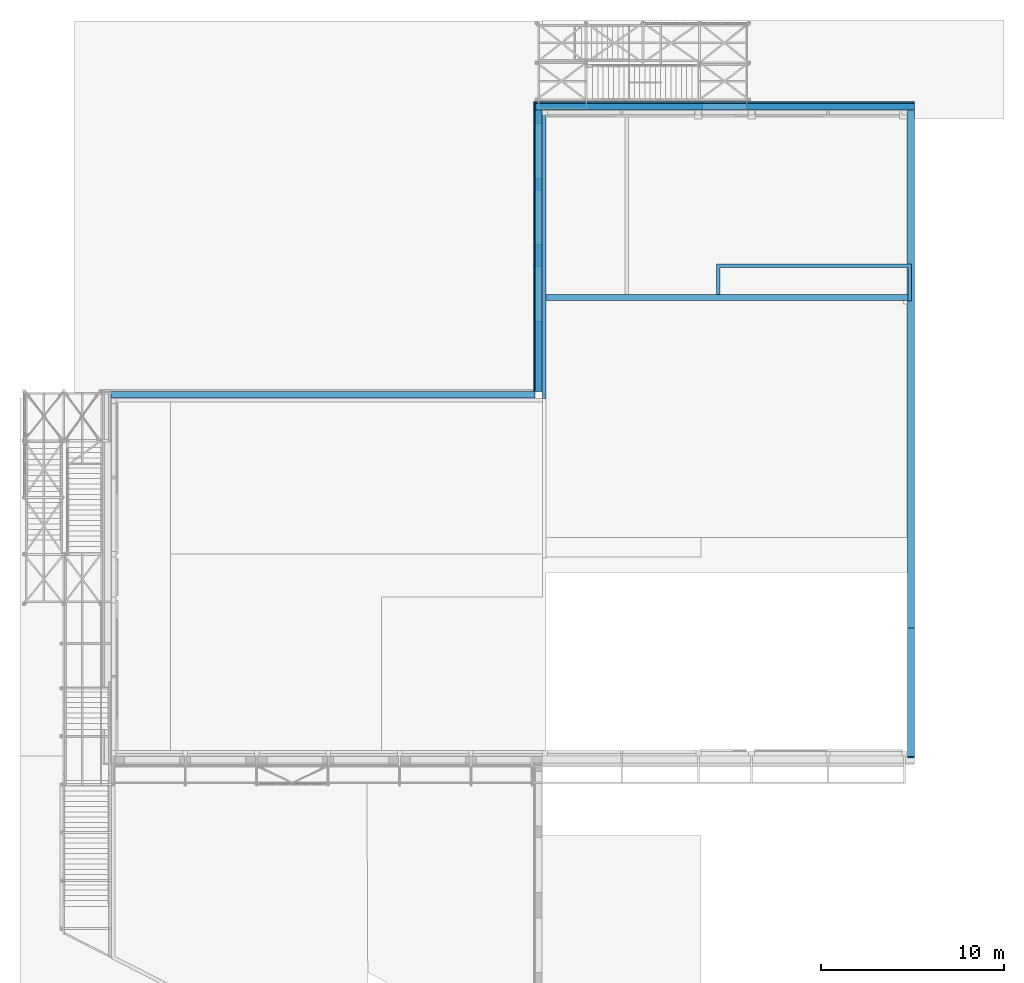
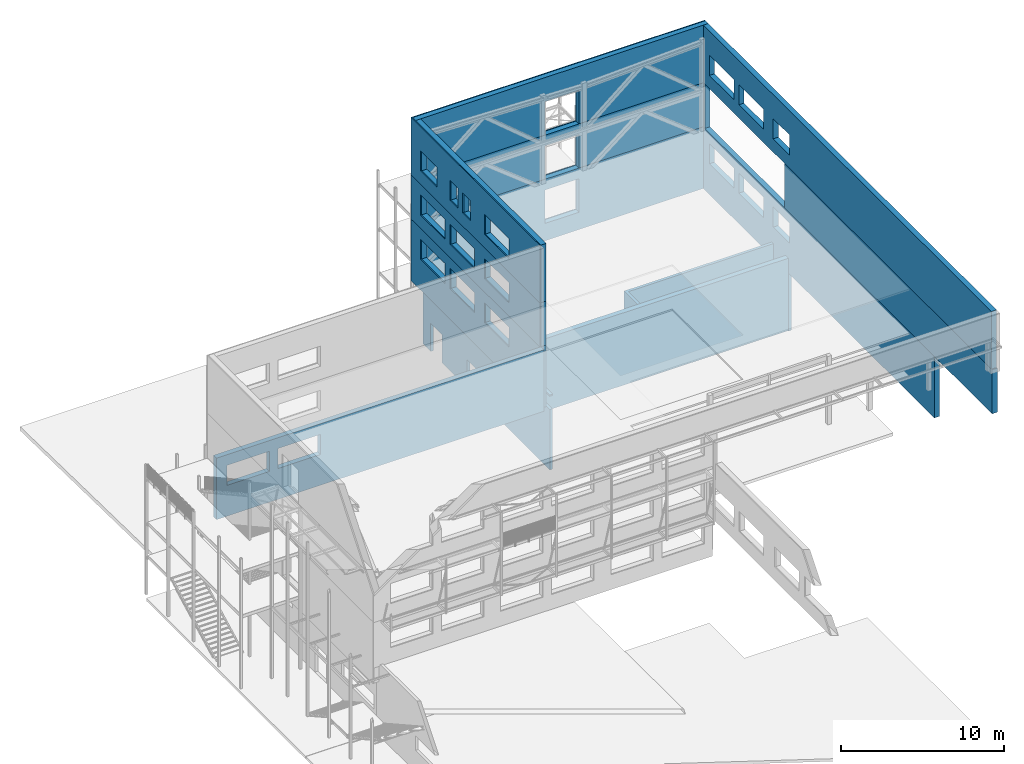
# One storey, part 66 of 78: 19 walls, 19 elements without a shape of their own.
"""IFC2X3 building model written with IfcOpenShell, lengths in millimetres."""

from ifc_helpers import new_model, si_unit, frame, frame_2d, origin_with_axes, place, context, subcontext, project, spatial, polyline, rectangle, outline, extrude, boolean, faceted_brep, material, type_object, element, aggregate, save


model = new_model("IFC2X3")

# Units and contexts
model_context = context("Model", 3, precision=1e-05, world=origin_with_axes())
body_context = subcontext(model_context, "Body", "Model", "MODEL_VIEW")
ifc_project = project(units=[si_unit("LENGTHUNIT", "METRE", prefix="MILLI"), si_unit("AREAUNIT", "SQUARE_METRE"), si_unit("VOLUMEUNIT", "CUBIC_METRE"), si_unit("MASSUNIT", "GRAM", prefix="KILO"), si_unit("TIMEUNIT", "SECOND"), si_unit("PLANEANGLEUNIT", "RADIAN"), si_unit("SOLIDANGLEUNIT", "STERADIAN"), si_unit("THERMODYNAMICTEMPERATUREUNIT", "DEGREE_CELSIUS"), si_unit("LUMINOUSINTENSITYUNIT", "LUMEN")], contexts=[model_context])

# Site, building, storey
site_placement = place(None, origin_with_axes())
site = spatial("IfcSite", under=ifc_project, at=site_placement, Name="Site", CompositionType="ELEMENT")
building_placement = place(site_placement, origin_with_axes())
building = spatial("IfcBuilding", under=site, at=building_placement, Name="Undefined", CompositionType="ELEMENT")
storey_placement = place(building_placement, origin_with_axes())
storey = spatial("IfcBuildingStorey", under=building, at=storey_placement, Name="Undefined", CompositionType="ELEMENT", Elevation=0.0)

# Assembly, wall
assembly_1_placement = place(storey_placement, origin_with_axes())
assembly_1 = element("IfcElementAssembly", 1, at=assembly_1_placement, inside=storey, Name="PANNEAU", AssemblyPlace="NOTDEFINED", PredefinedType="RIGID_FRAME")
ifc_material_1 = material(Name="STEEL/S235JR")
wall_type_1 = type_object("IfcWallType", Name="4300*75", PredefinedType="NOTDEFINED")
wall_1_placement = place(assembly_1_placement, frame((-7513.93307495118, 28603.0008996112, 160000.040297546), z_axis=(0.0, 0.0, 1.0), x_axis=(0.0, -1.0, 0.0)))
wall_1 = element("IfcWall", 2, at=wall_1_placement, type_object=wall_type_1, material=ifc_material_1, Name="PANNEAU", ObjectType="4300*75", context=body_context, shape_type="CSG", body=[
    boolean("DIFFERENCE", boolean("DIFFERENCE", boolean("DIFFERENCE", boolean("DIFFERENCE", extrude(rectangle(XDim=15795.0006103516, YDim=75.0, at=frame_2d((0.0, 7897.50030517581), x_axis=(0.0, -1.0))), frame((0.0, 0.0, 0.0), z_axis=(0.0, 0.0, 1.0), x_axis=(0.0, -1.0, 0.0)), (0.0, 0.0, 1.0), 4300.0), extrude(outline(polyline([(0.0, 0.0), (3000.0, 0.0), (3000.0, 1500.00095367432), (0.0, 1500.00095367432), (0.0, 0.0)])), frame((8991.97436235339, 325.0, 999.999668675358), z_axis=(0.0, -1.0, 0.0), x_axis=(1.0, 0.0, 0.0)), (0.0, 0.0, 1.0), 365.0)), extrude(outline(polyline([(0.0, 0.0), (1500.0, -3.63797880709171e-12), (1500.0, 939.870834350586), (0.0, 939.870834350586), (0.0, 0.0)])), frame((4793.12938068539, 325.0, 2500.00042080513), z_axis=(0.0, -1.0, 0.0), x_axis=(0.0, 0.0, -1.0)), (0.0, 0.0, 1.0), 365.0)), extrude(outline(polyline([(0.0, 0.0), (940.000534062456, 1.92085281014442e-09), (939.999012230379, 1500.00095368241), (-0.00152183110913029, 1500.00000000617), (0.0, 0.0)])), frame((6337.9998292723, 325.0, 1000.00049495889), z_axis=(0.0, -1.0, 0.0), x_axis=(1.0, 0.0, 0.0)), (0.0, 0.0, 1.0), 365.0)), extrude(outline(polyline([(0.0, 0.0), (1979.99954223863, 2.16823536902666e-08), (1979.9988197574, 1500.0009536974), (-0.000722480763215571, 1500.0000000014), (0.0, 0.0)])), frame((1188.11274431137, 325.0, 1000.00024776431), z_axis=(0.0, -1.0, 0.0), x_axis=(1.0, 0.0, 0.0)), (0.0, 0.0, 1.0), 365.0)),
])
aggregate(assembly_1, [wall_1])

assembly_2_placement = place(storey_placement, origin_with_axes())
assembly_2 = element("IfcElementAssembly", 3, at=assembly_2_placement, inside=storey, Name="PANNEAU", AssemblyPlace="NOTDEFINED", PredefinedType="RIGID_FRAME")
wall_2_placement = place(assembly_2_placement, frame((13219.567024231, 28565.4996032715, 160000.039534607), z_axis=(0.0, 0.0, 1.0), x_axis=(-1.0, 0.0, 0.0)))
wall_2 = element("IfcWall", 4, at=wall_2_placement, type_object=wall_type_1, material=ifc_material_1, Name="PANNEAU", ObjectType="4300*75", context=body_context, shape_type="CSG", body=[
    boolean("DIFFERENCE", extrude(rectangle(XDim=20695.999622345, YDim=75.0, at=frame_2d((0.0, 10347.9998111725), x_axis=(0.0, -1.0))), frame((0.0, 0.0, 0.0), z_axis=(0.0, 0.0, 1.0), x_axis=(0.0, -1.0, 0.0)), (0.0, 0.0, 1.0), 4300.0), extrude(outline(polyline([(0.0, 0.0), (2399.99985694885, 0.0), (2399.99985694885, 2500.00095367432), (-1.81898940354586e-12, 2500.00095367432), (0.0, 0.0)])), frame((9152.99987792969, 325.0, 0.0), z_axis=(0.0, -1.0, 0.0), x_axis=(1.0, 0.0, 0.0)), (0.0, 0.0, 1.0), 365.0)),
])
aggregate(assembly_2, [wall_2])

assembly_3_placement = place(storey_placement, origin_with_axes())
assembly_3 = element("IfcElementAssembly", 5, at=assembly_3_placement, inside=storey, Name="PANNEAU", AssemblyPlace="NOTDEFINED", PredefinedType="RIGID_FRAME")
wall_type_2 = type_object("IfcWallType", Name="3300*75", PredefinedType="NOTDEFINED")
wall_3_placement = place(assembly_3_placement, frame((-7513.93307495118, 28603.0009002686, 156700.040297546), z_axis=(0.0, 0.0, 1.0), x_axis=(0.0, -1.0, 0.0)))
wall_3 = element("IfcWall", 6, at=wall_3_placement, type_object=wall_type_2, material=ifc_material_1, Name="PANNEAU", ObjectType="3300*75", context=body_context, shape_type="CSG", body=[
    boolean("DIFFERENCE", boolean("DIFFERENCE", boolean("DIFFERENCE", extrude(rectangle(XDim=15795.0006103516, YDim=75.0, at=frame_2d((0.0, 7897.50030517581), x_axis=(0.0, -1.0))), frame((0.0, 0.0, 0.0), z_axis=(0.0, 0.0, 1.0), x_axis=(0.0, -1.0, 0.0)), (0.0, 0.0, 1.0), 3300.0), extrude(outline(polyline([(0.0, 0.0), (3000.0, 0.0), (3000.0, 1500.0), (0.0, 1500.0), (0.0, 0.0)])), frame((8991.97441101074, 325.0, 1000.0), z_axis=(0.0, -1.0, 0.0), x_axis=(1.0, 0.0, 0.0)), (0.0, 0.0, 1.0), 365.0)), extrude(outline(polyline([(0.0, 0.0), (3000.0, 0.0), (3000.0, 1500.0), (0.0, 1500.0), (0.0, 0.0)])), frame((4793.12950134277, 325.0, 1000.0), z_axis=(0.0, -1.0, 0.0), x_axis=(1.0, 0.0, 0.0)), (0.0, 0.0, 1.0), 365.0)), extrude(outline(polyline([(0.0, 0.0), (3000.0, 0.0), (3000.0, 1500.0), (0.0, 1500.0), (0.0, 0.0)])), frame((1188.11279296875, 325.0, 1000.0), z_axis=(0.0, -1.0, 0.0), x_axis=(1.0, 0.0, 0.0)), (0.0, 0.0, 1.0), 365.0)),
])
aggregate(assembly_3, [wall_3])

assembly_4_placement = place(storey_placement, origin_with_axes())
assembly_4 = element("IfcElementAssembly", 7, at=assembly_4_placement, inside=storey, Name="PANNEAU", AssemblyPlace="NOTDEFINED", PredefinedType="RIGID_FRAME")
wall_4_placement = place(assembly_4_placement, frame((13219.567024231, 28565.4996032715, 156700.040297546), z_axis=(0.0, 0.0, 1.0), x_axis=(-1.0, 0.0, 0.0)))
wall_4 = element("IfcWall", 8, at=wall_4_placement, type_object=wall_type_2, material=ifc_material_1, Name="PANNEAU", ObjectType="3300*75", context=body_context, shape_type="CSG", body=[
    boolean("DIFFERENCE", extrude(rectangle(XDim=20695.999622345, YDim=75.0, at=frame_2d((0.0, 10347.9998111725), x_axis=(0.0, -1.0))), frame((0.0, 0.0, 0.0), z_axis=(0.0, 0.0, 1.0), x_axis=(0.0, -1.0, 0.0)), (0.0, 0.0, 1.0), 3300.0), extrude(outline(polyline([(0.0, 0.0), (2399.99985694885, 0.0), (2399.99985694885, 2500.0), (1.81898940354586e-12, 2500.0), (0.0, 0.0)])), frame((9152.99987792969, 325.0, 0.0), z_axis=(0.0, -1.0, 0.0), x_axis=(1.0, 0.0, 0.0)), (0.0, 0.0, 1.0), 365.0)),
])
aggregate(assembly_4, [wall_4])

assembly_5_placement = place(storey_placement, origin_with_axes())
assembly_5 = element("IfcElementAssembly", 9, at=assembly_5_placement, inside=storey, Name="PANNEAU", AssemblyPlace="NOTDEFINED", PredefinedType="RIGID_FRAME")
wall_type_3 = type_object("IfcWallType", Name="4600*75", PredefinedType="NOTDEFINED")
wall_5_placement = place(assembly_5_placement, frame((-7513.93307495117, 28603.0009002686, 152100.039916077), z_axis=(0.0, 0.0, 1.0), x_axis=(0.0, -1.0, 0.0)))
wall_5 = element("IfcWall", 10, at=wall_5_placement, type_object=wall_type_3, material=ifc_material_1, Name="PANNEAU", ObjectType="4600*75", context=body_context, shape_type="CSG", body=[
    boolean("DIFFERENCE", boolean("DIFFERENCE", boolean("DIFFERENCE", extrude(rectangle(XDim=15795.0006103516, YDim=75.0, at=frame_2d((0.0, 7897.50030517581), x_axis=(0.0, -1.0))), frame((0.0, 0.0, 0.0), z_axis=(0.0, 0.0, 1.0), x_axis=(0.0, -1.0, 0.0)), (0.0, 0.0, 1.0), 4600.0), extrude(outline(polyline([(0.0, 0.0), (3000.0, 0.0), (3000.0, 1500.0), (0.0, 1500.0), (0.0, 0.0)])), frame((8991.97441101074, 325.0, 2300.00019073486), z_axis=(0.0, -1.0, 0.0), x_axis=(1.0, 0.0, 0.0)), (0.0, 0.0, 1.0), 365.0)), extrude(outline(polyline([(0.0, 0.0), (3000.0, 0.0), (3000.0, 1500.0), (0.0, 1500.0), (0.0, 0.0)])), frame((4793.12950134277, 325.0, 2300.00019073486), z_axis=(0.0, -1.0, 0.0), x_axis=(1.0, 0.0, 0.0)), (0.0, 0.0, 1.0), 365.0)), extrude(outline(polyline([(0.0, 0.0), (3000.0, 0.0), (3000.0, 1500.0), (0.0, 1500.0), (0.0, 0.0)])), frame((1188.11279296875, 325.0, 2300.00019073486), z_axis=(0.0, -1.0, 0.0), x_axis=(1.0, 0.0, 0.0)), (0.0, 0.0, 1.0), 365.0)),
])
aggregate(assembly_5, [wall_5])

assembly_6_placement = place(storey_placement, origin_with_axes())
assembly_6 = element("IfcElementAssembly", 11, at=assembly_6_placement, inside=storey, Name="PANNEAU", AssemblyPlace="NOTDEFINED", PredefinedType="RIGID_FRAME")
wall_6_placement = place(assembly_6_placement, frame((13219.567024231, 28565.4996032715, 152100.039916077), z_axis=(0.0, 0.0, 1.0), x_axis=(-1.0, 0.0, 0.0)))
wall_6 = element("IfcWall", 12, at=wall_6_placement, type_object=wall_type_3, material=ifc_material_1, Name="PANNEAU", ObjectType="4600*75", context=body_context, shape_type="CSG", body=[
    boolean("DIFFERENCE", extrude(rectangle(XDim=20695.999622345, YDim=75.0, at=frame_2d((0.0, 10347.9998111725), x_axis=(0.0, -1.0))), frame((0.0, 0.0, 0.0), z_axis=(0.0, 0.0, 1.0), x_axis=(0.0, -1.0, 0.0)), (0.0, 0.0, 1.0), 4600.0), extrude(outline(polyline([(0.0, 0.0), (2399.99985694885, 0.0), (2399.99985694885, 2500.0), (1.81898940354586e-12, 2500.0), (0.0, 0.0)])), frame((9152.99987792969, 325.0, 1300.00019073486), z_axis=(0.0, -1.0, 0.0), x_axis=(1.0, 0.0, 0.0)), (0.0, 0.0, 1.0), 365.0)),
])
aggregate(assembly_6, [wall_6])

assembly_7_placement = place(storey_placement, origin_with_axes())
assembly_7 = element("IfcElementAssembly", 13, at=assembly_7_placement, inside=storey, Name="PANNEAU", AssemblyPlace="NOTDEFINED", PredefinedType="NOTDEFINED")
ifc_material_2 = material(Name="MISCELLANEOUS/ISOLANT")
wall_type_4 = type_object("IfcWallType", Name="4300*360", PredefinedType="NOTDEFINED")
wall_7_placement = place(assembly_7_placement, frame((-7296.43307495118, 28168.00090097, 160000.040297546), z_axis=(0.0, 0.0, 1.0), x_axis=(0.0, -1.0, 0.0)))
wall_7 = element("IfcWall", 14, at=wall_7_placement, type_object=wall_type_4, material=ifc_material_2, Name="PANNEAU", ObjectType="4300*360", context=body_context, shape_type="CSG", body=[
    boolean("DIFFERENCE", boolean("DIFFERENCE", boolean("DIFFERENCE", boolean("DIFFERENCE", extrude(rectangle(XDim=15360.0006103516, YDim=360.0, at=frame_2d((0.0, 7680.00030517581), x_axis=(0.0, -1.0))), frame((0.0, 0.0, 0.0), z_axis=(0.0, 0.0, 1.0), x_axis=(0.0, -1.0, 0.0)), (0.0, 0.0, 1.0), 4300.0), extrude(outline(polyline([(0.0, 0.0), (3000.0, 0.0), (3000.0, 1500.00095367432), (0.0, 1500.00095367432), (0.0, 0.0)])), frame((8556.97436171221, 182.5, 999.999664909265), z_axis=(0.0, -1.0, 0.0), x_axis=(1.0, 0.0, 0.0)), (0.0, 0.0, 1.0), 365.0)), extrude(outline(polyline([(0.0, 0.0), (1500.0, -3.63797880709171e-12), (1500.0, 939.870834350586), (0.0, 939.870834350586), (0.0, 0.0)])), frame((4358.1293770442, 182.5, 2500.00040864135), z_axis=(0.0, -1.0, 0.0), x_axis=(0.0, 0.0, -1.0)), (0.0, 0.0, 1.0), 365.0)), extrude(outline(polyline([(0.0, 0.0), (940.000534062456, 1.92085281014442e-09), (939.999012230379, 1500.00095368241), (-0.00152183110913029, 1500.00000000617), (0.0, 0.0)])), frame((5902.99982863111, 182.5, 1000.00048588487), z_axis=(0.0, -1.0, 0.0), x_axis=(1.0, 0.0, 0.0)), (0.0, 0.0, 1.0), 365.0)), extrude(outline(polyline([(0.0, 0.0), (1979.99954223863, 2.16823536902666e-08), (1979.9988197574, 1500.0009536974), (-0.000722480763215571, 1500.0000000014), (0.0, 0.0)])), frame((753.112743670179, 182.5, 1000.00022839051), z_axis=(0.0, -1.0, 0.0), x_axis=(1.0, 0.0, 0.0)), (0.0, 0.0, 1.0), 365.0)),
])
aggregate(assembly_7, [wall_7])

assembly_8_placement = place(storey_placement, origin_with_axes())
assembly_8 = element("IfcElementAssembly", 15, at=assembly_8_placement, inside=storey, Name="PANNEAU", AssemblyPlace="NOTDEFINED", PredefinedType="NOTDEFINED")
wall_8_placement = place(assembly_8_placement, frame((13039.567024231, 28167.9996032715, 160000.039534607), z_axis=(0.0, 0.0, 1.0), x_axis=(0.0, -1.0, 0.0)))
wall_8 = element("IfcWall", 16, at=wall_8_placement, type_object=wall_type_4, material=ifc_material_2, Name="PANNEAU", ObjectType="4300*360", context=body_context, shape_type="CSG", body=[
    boolean("DIFFERENCE", boolean("DIFFERENCE", boolean("DIFFERENCE", extrude(rectangle(XDim=35296.0014228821, YDim=360.0, at=frame_2d((0.0, 17648.000711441), x_axis=(0.0, -1.0))), frame((0.0, 0.0, 0.0), z_axis=(0.0, 0.0, 1.0), x_axis=(0.0, -1.0, 0.0)), (0.0, 0.0, 1.0), 4300.0), extrude(outline(polyline([(0.0, 0.0), (1979.99954223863, 2.16823536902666e-08), (1979.9988197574, 1500.0009536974), (-0.000722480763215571, 1500.0000000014), (0.0, 0.0)])), frame((8556.97311401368, 182.5, 1000.00095367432), z_axis=(0.0, -1.0, 0.0), x_axis=(1.0, 0.0, 0.0)), (0.0, 0.0, 1.0), 365.0)), extrude(outline(polyline([(0.0, 0.0), (1500.00095367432, 0.0), (1500.00095367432, 3000.00000000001), (0.00095367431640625, 3000.0), (0.0, 0.0)])), frame((4358.12820434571, -182.5, 1000.0), z_axis=(0.0, 1.0, 0.0), x_axis=(0.0, 0.0, 1.0)), (0.0, 0.0, 1.0), 365.0)), extrude(outline(polyline([(0.0, 0.0), (1500.00095367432, 0.0), (1500.00095367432, 3000.00000000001), (0.0, 3000.00000000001), (0.0, 0.0)])), frame((753.111495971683, -182.5, 1000.0), z_axis=(0.0, 1.0, 0.0), x_axis=(0.0, 0.0, 1.0)), (0.0, 0.0, 1.0), 365.0)),
])
aggregate(assembly_8, [wall_8])

assembly_9_placement = place(storey_placement, origin_with_axes())
assembly_9 = element("IfcElementAssembly", 17, at=assembly_9_placement, inside=storey, Name="PANNEAU", AssemblyPlace="NOTDEFINED", PredefinedType="NOTDEFINED")
wall_9_placement = place(assembly_9_placement, frame((13219.567024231, 28347.9996032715, 160000.039534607), z_axis=(0.0, 0.0, 1.0), x_axis=(-1.0, 0.0, 0.0)))
wall_9 = element("IfcWall", 18, at=wall_9_placement, type_object=wall_type_4, material=ifc_material_2, Name="PANNEAU", ObjectType="4300*360", context=body_context, shape_type="CSG", body=[
    boolean("DIFFERENCE", extrude(rectangle(XDim=20695.999622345, YDim=360.0, at=frame_2d((0.0, 10347.9998111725), x_axis=(0.0, -1.0))), frame((0.0, 0.0, 0.0), z_axis=(0.0, 0.0, 1.0), x_axis=(0.0, -1.0, 0.0)), (0.0, 0.0, 1.0), 4300.0), extrude(outline(polyline([(0.0, 0.0), (2399.99985694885, 0.0), (2399.99985694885, 2500.00095367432), (-1.81898940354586e-12, 2500.00095367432), (0.0, 0.0)])), frame((9152.99987792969, 182.5, 0.0), z_axis=(0.0, -1.0, 0.0), x_axis=(1.0, 0.0, 0.0)), (0.0, 0.0, 1.0), 365.0)),
])
aggregate(assembly_9, [wall_9])

assembly_10_placement = place(storey_placement, origin_with_axes())
assembly_10 = element("IfcElementAssembly", 19, at=assembly_10_placement, inside=storey, Name="PANNEAU", AssemblyPlace="NOTDEFINED", PredefinedType="NOTDEFINED")
wall_type_5 = type_object("IfcWallType", Name="3300*360", PredefinedType="NOTDEFINED")
wall_10_placement = place(assembly_10_placement, frame((-7296.43307495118, 28168.0009002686, 156700.040297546), z_axis=(0.0, 0.0, 1.0), x_axis=(0.0, -1.0, 0.0)))
wall_10 = element("IfcWall", 20, at=wall_10_placement, type_object=wall_type_5, material=ifc_material_2, Name="PANNEAU", ObjectType="3300*360", context=body_context, shape_type="CSG", body=[
    boolean("DIFFERENCE", boolean("DIFFERENCE", boolean("DIFFERENCE", extrude(rectangle(XDim=15360.0006103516, YDim=360.0, at=frame_2d((0.0, 7680.00030517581), x_axis=(0.0, -1.0))), frame((0.0, 0.0, 0.0), z_axis=(0.0, 0.0, 1.0), x_axis=(0.0, -1.0, 0.0)), (0.0, 0.0, 1.0), 3300.0), extrude(outline(polyline([(0.0, 0.0), (3000.0, 0.0), (3000.0, 1500.0), (0.0, 1500.0), (0.0, 0.0)])), frame((8556.97441101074, 182.5, 1000.0), z_axis=(0.0, -1.0, 0.0), x_axis=(1.0, 0.0, 0.0)), (0.0, 0.0, 1.0), 365.0)), extrude(outline(polyline([(0.0, 0.0), (3000.0, 0.0), (3000.0, 1500.0), (0.0, 1500.0), (0.0, 0.0)])), frame((4358.12950134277, 182.5, 1000.0), z_axis=(0.0, -1.0, 0.0), x_axis=(1.0, 0.0, 0.0)), (0.0, 0.0, 1.0), 365.0)), extrude(outline(polyline([(0.0, 0.0), (3000.0, 0.0), (3000.0, 1500.0), (0.0, 1500.0), (0.0, 0.0)])), frame((753.11279296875, 182.5, 1000.0), z_axis=(0.0, -1.0, 0.0), x_axis=(1.0, 0.0, 0.0)), (0.0, 0.0, 1.0), 365.0)),
])
aggregate(assembly_10, [wall_10])

assembly_11_placement = place(storey_placement, origin_with_axes())
assembly_11 = element("IfcElementAssembly", 21, at=assembly_11_placement, inside=storey, Name="PANNEAU", AssemblyPlace="NOTDEFINED", PredefinedType="NOTDEFINED")
wall_11_placement = place(assembly_11_placement, frame((13039.567024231, 28168.0009002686, 156700.039916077), z_axis=(0.0, 0.0, 1.0), x_axis=(0.0, -1.0, 0.0)))
wall_11 = element("IfcWall", 22, at=wall_11_placement, type_object=wall_type_5, material=ifc_material_2, Name="PANNEAU", ObjectType="3300*360", context=body_context, shape_type="CSG", body=[
    boolean("DIFFERENCE", extrude(rectangle(XDim=35373.0014228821, YDim=360.0, at=frame_2d((0.0, 17686.500711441), x_axis=(0.0, -1.0))), frame((0.0, 0.0, 0.0), z_axis=(0.0, 0.0, 1.0), x_axis=(0.0, -1.0, 0.0)), (0.0, 0.0, 1.0), 3300.0), extrude(outline(polyline([(0.0, 0.0), (9730.52597045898, 0.0), (9730.52597045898, 3299.99923706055), (0.0, 3299.99923706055), (0.0, 0.0)])), frame((9928.0014038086, -182.5, 0.0003814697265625), z_axis=(0.0, 1.0, 0.0), x_axis=(-1.0, 0.0, 0.0)), (0.0, 0.0, 1.0), 365.0)),
])
aggregate(assembly_11, [wall_11])

assembly_12_placement = place(storey_placement, origin_with_axes())
assembly_12 = element("IfcElementAssembly", 23, at=assembly_12_placement, inside=storey, Name="PANNEAU", AssemblyPlace="NOTDEFINED", PredefinedType="NOTDEFINED")
wall_12_placement = place(assembly_12_placement, frame((13219.567024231, 28347.9996032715, 156700.040297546), z_axis=(0.0, 0.0, 1.0), x_axis=(-1.0, 0.0, 0.0)))
wall_12 = element("IfcWall", 24, at=wall_12_placement, type_object=wall_type_5, material=ifc_material_2, Name="PANNEAU", ObjectType="3300*360", context=body_context, shape_type="CSG", body=[
    boolean("DIFFERENCE", extrude(rectangle(XDim=20695.999622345, YDim=360.0, at=frame_2d((0.0, 10347.9998111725), x_axis=(0.0, -1.0))), frame((0.0, 0.0, 0.0), z_axis=(0.0, 0.0, 1.0), x_axis=(0.0, -1.0, 0.0)), (0.0, 0.0, 1.0), 3300.0), extrude(outline(polyline([(0.0, 0.0), (2399.99985694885, 0.0), (2399.99985694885, 2500.0), (1.81898940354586e-12, 2500.0), (0.0, 0.0)])), frame((9152.99987792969, 182.5, 0.0), z_axis=(0.0, -1.0, 0.0), x_axis=(1.0, 0.0, 0.0)), (0.0, 0.0, 1.0), 365.0)),
])
aggregate(assembly_12, [wall_12])

assembly_13_placement = place(storey_placement, origin_with_axes())
assembly_13 = element("IfcElementAssembly", 25, at=assembly_13_placement, inside=storey, Name="PANNEAU", AssemblyPlace="NOTDEFINED", PredefinedType="NOTDEFINED")
wall_type_6 = type_object("IfcWallType", Name="4600*360", PredefinedType="NOTDEFINED")
wall_13_placement = place(assembly_13_placement, frame((-7476.43307495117, 12628.000289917, 152100.039916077), z_axis=(0.0, 0.0, 1.0), x_axis=(-1.0, 0.0, 0.0)))
wall_13 = element("IfcWall", 26, at=wall_13_placement, type_object=wall_type_6, material=ifc_material_2, Name="PANNEAU", ObjectType="4600*360", context=body_context, shape_type="CSG", body=[
    boolean("DIFFERENCE", boolean("DIFFERENCE", extrude(rectangle(XDim=23159.9998474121, YDim=360.0, at=frame_2d((0.0, 11579.9999504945), x_axis=(0.0, -1.0))), frame((0.0, 0.0, 0.0), z_axis=(0.0, 0.0, 1.0), x_axis=(0.0, -1.0, 0.0)), (0.0, 0.0, 1.0), 4600.0), extrude(outline(polyline([(0.0, 0.0), (1500.0, -3.63797880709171e-12), (1500.0, 3000.0), (0.0, 3000.00000000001), (0.0, 0.0)])), frame((18807.1117401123, 182.5, 2300.00019073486), z_axis=(0.0, -1.0, 0.0), x_axis=(0.0, 0.0, 1.0)), (0.0, 0.0, 1.0), 365.0)), extrude(outline(polyline([(0.0, 0.0), (1500.0, -3.63797880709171e-12), (1500.0, 3000.0), (0.0, 3000.00000000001), (0.0, 0.0)])), frame((22412.1112823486, 182.5, 2300.00019073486), z_axis=(0.0, -1.0, 0.0), x_axis=(0.0, 0.0, 1.0)), (0.0, 0.0, 1.0), 365.0)),
])
aggregate(assembly_13, [wall_13])

assembly_14_placement = place(storey_placement, origin_with_axes())
assembly_14 = element("IfcElementAssembly", 27, at=assembly_14_placement, inside=storey, Name="PANNEAU", AssemblyPlace="NOTDEFINED", PredefinedType="NOTDEFINED")
wall_14_placement = place(assembly_14_placement, frame((-7296.43307495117, 28168.0009002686, 152100.039916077), z_axis=(0.0, 0.0, 1.0), x_axis=(0.0, -1.0, 0.0)))
wall_14 = element("IfcWall", 28, at=wall_14_placement, type_object=wall_type_6, material=ifc_material_2, Name="PANNEAU", ObjectType="4600*360", context=body_context, shape_type="CSG", body=[
    boolean("DIFFERENCE", boolean("DIFFERENCE", boolean("DIFFERENCE", extrude(rectangle(XDim=15360.0006103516, YDim=360.0, at=frame_2d((0.0, 7680.00030517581), x_axis=(0.0, -1.0))), frame((0.0, 0.0, 0.0), z_axis=(0.0, 0.0, 1.0), x_axis=(0.0, -1.0, 0.0)), (0.0, 0.0, 1.0), 4600.0), extrude(outline(polyline([(0.0, 0.0), (3000.0, 0.0), (3000.0, 1500.0), (0.0, 1500.0), (0.0, 0.0)])), frame((8556.97441101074, 182.5, 2300.00019073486), z_axis=(0.0, -1.0, 0.0), x_axis=(1.0, 0.0, 0.0)), (0.0, 0.0, 1.0), 365.0)), extrude(outline(polyline([(0.0, 0.0), (3000.0, 0.0), (3000.0, 1500.0), (0.0, 1500.0), (0.0, 0.0)])), frame((4358.12950134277, 182.5, 2300.00019073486), z_axis=(0.0, -1.0, 0.0), x_axis=(1.0, 0.0, 0.0)), (0.0, 0.0, 1.0), 365.0)), extrude(outline(polyline([(0.0, 0.0), (3000.0, 0.0), (3000.0, 1500.0), (0.0, 1500.0), (0.0, 0.0)])), frame((753.11279296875, 182.5, 2300.00019073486), z_axis=(0.0, -1.0, 0.0), x_axis=(1.0, 0.0, 0.0)), (0.0, 0.0, 1.0), 365.0)),
])
aggregate(assembly_14, [wall_14])

assembly_15_placement = place(storey_placement, origin_with_axes())
assembly_15 = element("IfcElementAssembly", 29, at=assembly_15_placement, inside=storey, Name="PANNEAU", AssemblyPlace="NOTDEFINED", PredefinedType="NOTDEFINED")
wall_15_placement = place(assembly_15_placement, frame((13039.567024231, 28168.0009002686, 152100.039916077), z_axis=(0.0, 0.0, 1.0), x_axis=(0.0, -1.0, 0.0)))
wall_15 = element("IfcWall", 30, at=wall_15_placement, type_object=wall_type_6, material=ifc_material_2, Name="PANNEAU", ObjectType="4600*360", context=body_context, shape_type="CSG", body=[
    boolean("DIFFERENCE", boolean("DIFFERENCE", boolean("DIFFERENCE", extrude(rectangle(XDim=28283.0014228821, YDim=360.0, at=frame_2d((0.0, 14141.500711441), x_axis=(0.0, -1.0))), frame((0.0, 0.0, 0.0), z_axis=(0.0, 0.0, 1.0), x_axis=(0.0, -1.0, 0.0)), (0.0, 0.0, 1.0), 4600.0), extrude(outline(polyline([(0.0, 0.0), (1979.99954223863, 2.16823536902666e-08), (1979.99954223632, 1500.0), (0.0, 1500.0), (0.0, 0.0)])), frame((8556.97441101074, 182.5, 2300.00019073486), z_axis=(0.0, -1.0, 0.0), x_axis=(1.0, 0.0, 0.0)), (0.0, 0.0, 1.0), 365.0)), extrude(outline(polyline([(0.0, 0.0), (3000.0, 0.0), (3000.0, 1500.0), (0.0, 1500.0), (0.0, 0.0)])), frame((4358.12950134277, 182.5, 2300.00019073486), z_axis=(0.0, -1.0, 0.0), x_axis=(1.0, 0.0, 0.0)), (0.0, 0.0, 1.0), 365.0)), extrude(outline(polyline([(0.0, 0.0), (3000.0, 0.0), (3000.0, 1500.0), (0.0, 1500.0), (0.0, 0.0)])), frame((753.11279296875, 182.5, 2300.00019073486), z_axis=(0.0, -1.0, 0.0), x_axis=(1.0, 0.0, 0.0)), (0.0, 0.0, 1.0), 365.0)),
])
aggregate(assembly_15, [wall_15])

assembly_16_placement = place(storey_placement, origin_with_axes())
assembly_16 = element("IfcElementAssembly", 31, at=assembly_16_placement, inside=storey, Name="PANNEAU", AssemblyPlace="NOTDEFINED", PredefinedType="NOTDEFINED")
wall_16_placement = place(assembly_16_placement, frame((13219.567024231, 28347.9996032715, 152100.039916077), z_axis=(0.0, 0.0, 1.0), x_axis=(-1.0, 0.0, 0.0)))
wall_16 = element("IfcWall", 32, at=wall_16_placement, type_object=wall_type_6, material=ifc_material_2, Name="PANNEAU", ObjectType="4600*360", context=body_context, shape_type="CSG", body=[
    boolean("DIFFERENCE", extrude(rectangle(XDim=20695.999622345, YDim=360.0, at=frame_2d((0.0, 10347.9998111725), x_axis=(0.0, -1.0))), frame((0.0, 0.0, 0.0), z_axis=(0.0, 0.0, 1.0), x_axis=(0.0, -1.0, 0.0)), (0.0, 0.0, 1.0), 4600.0), extrude(outline(polyline([(0.0, 0.0), (2399.99985694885, 0.0), (2399.99985694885, 2500.0), (1.81898940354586e-12, 2500.0), (0.0, 0.0)])), frame((9152.99987792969, 182.5, 1300.00019073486), z_axis=(0.0, -1.0, 0.0), x_axis=(1.0, 0.0, 0.0)), (0.0, 0.0, 1.0), 365.0)),
])
aggregate(assembly_16, [wall_16])

assembly_17_placement = place(storey_placement, origin_with_axes())
assembly_17 = element("IfcElementAssembly", 33, at=assembly_17_placement, inside=storey, Name="PANNEAU", AssemblyPlace="NOTDEFINED", PredefinedType="REINFORCEMENT_UNIT")
ifc_material_3 = material(Name="CONCRETE/C25/30")
wall_type_7 = type_object("IfcWallType", Name="5440*200", PredefinedType="NOTDEFINED")
wall_17_placement = place(assembly_17_placement, frame((12966.2802598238, 17748.0134160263, 147759.950084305), z_axis=(0.0, 0.0, 1.0), x_axis=(-9.20599999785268e-05, 0.999999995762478, 0.0)))
wall_17 = element("IfcWall", 34, at=wall_17_placement, type_object=wall_type_7, material=ifc_material_3, Name="PANNEAU", ObjectType="5440*200", context=body_context, shape_type="Brep", body=[
    faceted_brep([(4.43687895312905e-08, -99.9999999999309, 0.0), (4.43687895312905e-08, -99.9999999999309, 5440.0), (-4.43651515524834e-08, 99.9999999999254, 5440.0), (-4.43651515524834e-08, 99.9999999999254, 0.0), (1809.70693348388, 100.000000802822, 5440.0), (1809.70693348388, 100.000000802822, 0.0), (2009.68852233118, -99.9999991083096, 0.0), (2009.68852233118, -99.9999991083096, 5440.0), (1810.65144046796, 10359.6891197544, 5440.0), (1810.65144046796, 10359.6891197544, 0.0), (2010.66985161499, 10559.6706492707, 0.0), (2010.66985161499, 10559.6706492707, 5440.0), (356.003561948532, 10359.8234538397, 5440.0), (356.003561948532, 10359.8234538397, 0.0), (356.022031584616, 10559.8234529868, 5440.0), (356.022031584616, 10559.8234529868, 0.0)], [[[0, 1, 2, 3]], [[3, 2, 4, 5]], [[1, 0, 6, 7]], [[5, 4, 8, 9]], [[7, 6, 10, 11]], [[9, 8, 12, 13]], [[8, 4, 2, 1, 7, 11, 14, 12]], [[11, 10, 15, 14]], [[10, 6, 0, 3, 5, 9, 13, 15]], [[14, 15, 13, 12]]]),
])
aggregate(assembly_17, [wall_17])

assembly_18_placement = place(storey_placement, origin_with_axes())
assembly_18 = element("IfcElementAssembly", 35, at=assembly_18_placement, inside=storey, Name="PANNEAU", AssemblyPlace="NOTDEFINED", PredefinedType="REINFORCEMENT_UNIT")
wall_type_8 = type_object("IfcWallType", Name="5407*350", PredefinedType="NOTDEFINED")
wall_18_placement = place(assembly_18_placement, frame((12866.2804501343, 17928.0633087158, 147793.039994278), z_axis=(0.0, 0.0, 1.0), x_axis=(-1.0, 0.0, 0.0)))
wall_18 = element("IfcWall", 36, at=wall_18_placement, type_object=wall_type_8, material=ifc_material_3, Name="PANNEAU", ObjectType="5407*350", context=body_context, shape_type="SweptSolid", body=[
    extrude(rectangle(XDim=19751.2917586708, YDim=350.0, at=frame_2d((0.0, 9875.6458793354), x_axis=(0.0, -1.0))), frame((0.0, 0.0, 0.0), z_axis=(0.0, 0.0, 1.0), x_axis=(0.0, -1.0, 0.0)), (0.0, 0.0, 1.0), 5407.0),
])
aggregate(assembly_18, [wall_18])

assembly_19_placement = place(storey_placement, origin_with_axes())
assembly_19 = element("IfcElementAssembly", 37, at=assembly_19_placement, inside=storey, Name="PANNEAU", AssemblyPlace="NOTDEFINED", PredefinedType="REINFORCEMENT_UNIT")
wall_type_9 = type_object("IfcWallType", Name="5600*200", PredefinedType="NOTDEFINED")
wall_19_placement = place(assembly_19_placement, frame((-6984.99983670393, 27934.9999542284, 147600.100235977), z_axis=(0.0, 0.0, 1.0), x_axis=(0.0, -1.0, 0.0)))
wall_19 = element("IfcWall", 38, at=wall_19_placement, type_object=wall_type_9, material=ifc_material_3, Name="PANNEAU", ObjectType="5600*200", context=body_context, shape_type="CSG", body=[
    boolean("DIFFERENCE", boolean("DIFFERENCE", boolean("DIFFERENCE", boolean("DIFFERENCE", extrude(rectangle(XDim=15520.0002670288, YDim=200.0, at=frame_2d((0.0, 7760.00013351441), x_axis=(0.0, -1.0))), frame((0.0, 0.0, 0.0), z_axis=(0.0, 0.0, 1.0), x_axis=(0.0, -1.0, 0.0)), (0.0, 0.0, 1.0), 5600.0), extrude(outline(polyline([(0.0, 0.0), (1000.0, -1.81898940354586e-12), (1000.0, 5000.00095367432), (0.0, 5000.00095367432), (0.0, 0.0)])), frame((10519.9993133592, -102.5, 4499.93968009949), z_axis=(0.0, 1.0, 0.0), x_axis=(0.0, 0.0, 1.0)), (0.0, 0.0, 1.0), 205.0)), extrude(outline(polyline([(0.0, 0.0), (1440.00164971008, -9.60426405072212e-10), (1439.9956037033, 1000.00000000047), (-7.27595761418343e-12, 1000.0), (0.0, 0.0)])), frame((8391.47752051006, 121.786121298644, 4499.93968009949), z_axis=(0.00204905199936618, -0.999997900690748, 0.0), x_axis=(0.999997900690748, 0.00204905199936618, 0.0)), (0.0, 0.0, 1.0), 246.0)), extrude(outline(polyline([(0.0, 0.0), (2099.99966621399, 0.0), (2099.99966621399, 1399.99961853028), (0.0, 1399.99961853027), (0.0, 0.0)])), frame((5412.84637451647, -102.5, 0.0), z_axis=(0.0, 1.0, 0.0), x_axis=(0.0, 0.0, 1.0)), (0.0, 0.0, 1.0), 205.0)), extrude(outline(polyline([(0.0, 0.0), (2099.99978542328, 0.0), (2100.00002384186, 1399.99961853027), (0.0, 1399.99961853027), (0.0, 0.0)])), frame((933.935928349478, -102.5, -0.000119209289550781), z_axis=(0.0, 1.0, 0.0), x_axis=(0.0, 0.0, 1.0)), (0.0, 0.0, 1.0), 205.0)),
])
aggregate(assembly_19, [wall_19])

save(model, "model.ifc")
